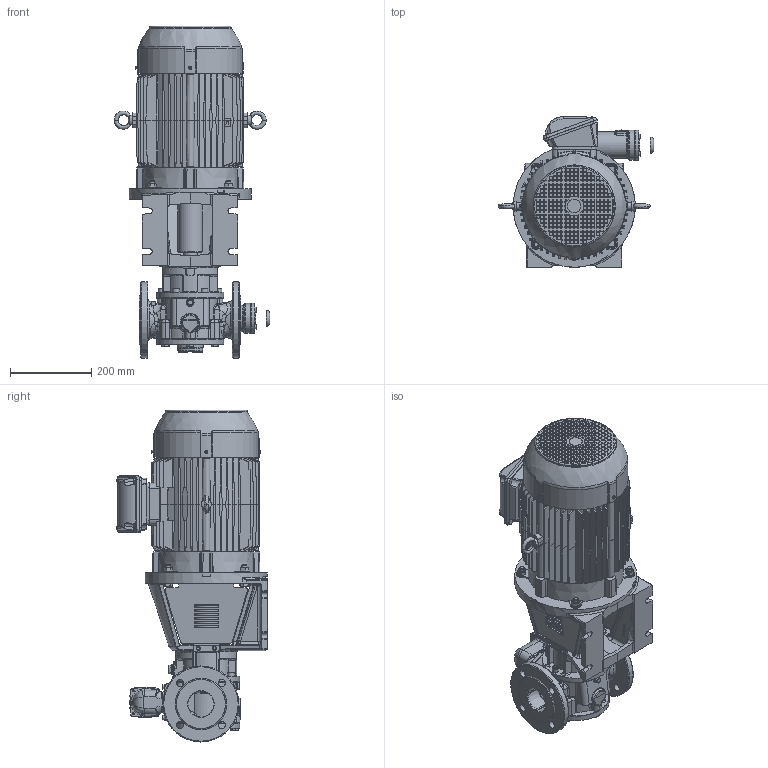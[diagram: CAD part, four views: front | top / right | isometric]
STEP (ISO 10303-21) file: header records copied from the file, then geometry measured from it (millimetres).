
FILE_DESCRIPTION(/* description */ (''),/* implementation_level */ '2;1');
FILE_NAME(/* name */ 'C:\V\JPP\Designs\GEAR PUMPS\PRODUCT ENGINEERING\EUROPE\TG BLOC\TG BLOC_23-65_R5_O_RV1-_132M-STEP.stp',/* time_stamp */ '2021-03-18T15:29:41+01:00',/* author */ ('A77THR'),/* organization */ (''),/* preprocessor_version */ 'ST-DEVELOPER v18.1',/* originating_system */ 'Autodesk Inventor 2020',/* authorisation */ '');
FILE_SCHEMA (('AUTOMOTIVE_DESIGN { 1 0 10303 214 3 1 1 }'));
Products named in the file (1): TG BLOC_23-65_R5_O_RV1-_132M
Bounding box: 382.98 x 370.15 x 816.8 mm (x, y, z)
Volume: 28078040.9 mm3; surface area: 1659855.5 mm2
Topology: 1 solids, 1 shells, 5564 faces, 14140 edges, 8888 vertices
Faces by surface type: plane 3067, bspline 1055, cylinder 784, cone 432, torus 169, sphere 57
Full cylindrical faces by diameter (mm): 4 x1, 4.5 x4, 4.917 x4, 5 x5, 5.459 x22, 6 x25, 6.647 x1, 7 x22, 8.376 x5, 8.5 x2, 8.7 x22, 9.188 x4, 10 x12, 10.5 x1, 11.445 x2, 11.5 x4, 12 x8, 13 x4, 15.011 x3, 15.4 x10, 16 x10, 17.2 x4, 17.9 x3, 18 x11, 19 x3, 21.939 x1, 25.9 x1, 26 x1, 29.4 x1, 30 x1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
Entity records: 233597 total; most frequent: CARTESIAN_POINT 102580, ORIENTED_EDGE 28002, DIRECTION 23336, EDGE_CURVE 14001, VERTEX_POINT 8888, AXIS2_PLACEMENT_3D 8022, LINE 7292, VECTOR 7292
